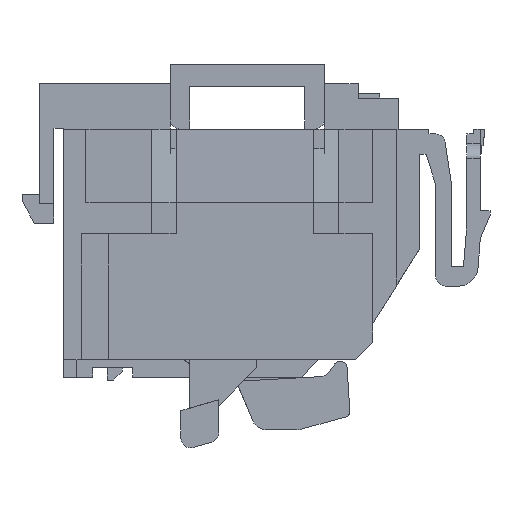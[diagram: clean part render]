
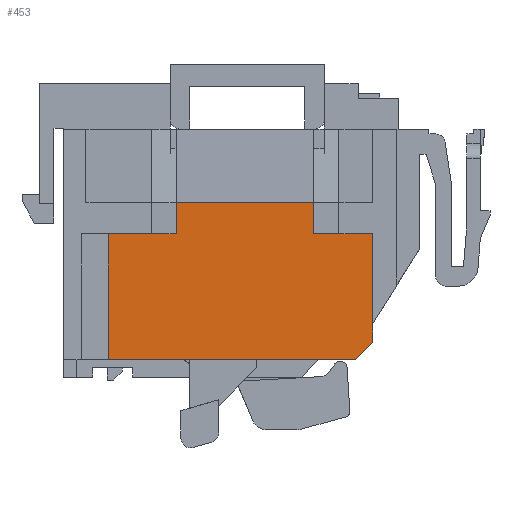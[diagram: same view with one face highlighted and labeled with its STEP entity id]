
A CAD part, front view. The second image highlights one B-rep face of the part: STEP entity #453.
In plain terms, the highlighted planar face has unit normal (0, -1, 0).
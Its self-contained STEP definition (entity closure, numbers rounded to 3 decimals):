
#147=FACE_OUTER_BOUND('',#2811,.T.);
#453=ADVANCED_FACE('',(#147),#757,.T.);
#757=PLANE('',#6593);
#1298=LINE('',#9179,#2172);
#1339=LINE('',#9258,#2213);
#1340=LINE('',#9260,#2214);
#1380=LINE('',#9340,#2254);
#1381=LINE('',#9343,#2255);
#1382=LINE('',#9345,#2256);
#1383=LINE('',#9347,#2257);
#1384=LINE('',#9349,#2258);
#1385=LINE('',#9350,#2259);
#1386=LINE('',#9352,#2260);
#1387=LINE('',#9354,#2261);
#1388=LINE('',#9356,#2262);
#2172=VECTOR('',#7379,1.);
#2213=VECTOR('',#7430,1.);
#2214=VECTOR('',#7433,1.);
#2254=VECTOR('',#7489,1.);
#2255=VECTOR('',#7490,1.);
#2256=VECTOR('',#7491,1.);
#2257=VECTOR('',#7492,1.);
#2258=VECTOR('',#7493,1.);
#2259=VECTOR('',#7494,1.);
#2260=VECTOR('',#7495,1.);
#2261=VECTOR('',#7496,1.);
#2262=VECTOR('',#7497,1.);
#2811=EDGE_LOOP('',(#3610,#3611,#3612,#3613,#3614,#3615,#3616,#3617,#3618,
#3619,#3620,#3621));
#3610=ORIENTED_EDGE('',*,*,#5943,.T.);
#3611=ORIENTED_EDGE('',*,*,#5944,.T.);
#3612=ORIENTED_EDGE('',*,*,#5945,.T.);
#3613=ORIENTED_EDGE('',*,*,#5946,.T.);
#3614=ORIENTED_EDGE('',*,*,#5947,.F.);
#3615=ORIENTED_EDGE('',*,*,#5861,.T.);
#3616=ORIENTED_EDGE('',*,*,#5902,.T.);
#3617=ORIENTED_EDGE('',*,*,#5903,.T.);
#3618=ORIENTED_EDGE('',*,*,#5948,.T.);
#3619=ORIENTED_EDGE('',*,*,#5949,.T.);
#3620=ORIENTED_EDGE('',*,*,#5950,.T.);
#3621=ORIENTED_EDGE('',*,*,#5951,.T.);
#5197=VERTEX_POINT('',#9178);
#5198=VERTEX_POINT('',#9180);
#5229=VERTEX_POINT('',#9253);
#5230=VERTEX_POINT('',#9257);
#5263=VERTEX_POINT('',#9341);
#5264=VERTEX_POINT('',#9342);
#5265=VERTEX_POINT('',#9344);
#5266=VERTEX_POINT('',#9346);
#5267=VERTEX_POINT('',#9348);
#5268=VERTEX_POINT('',#9351);
#5269=VERTEX_POINT('',#9353);
#5270=VERTEX_POINT('',#9355);
#5861=EDGE_CURVE('',#5198,#5197,#1298,.T.);
#5902=EDGE_CURVE('',#5197,#5230,#1339,.T.);
#5903=EDGE_CURVE('',#5230,#5229,#1340,.T.);
#5943=EDGE_CURVE('',#5263,#5264,#1380,.T.);
#5944=EDGE_CURVE('',#5264,#5265,#1381,.T.);
#5945=EDGE_CURVE('',#5265,#5266,#1382,.T.);
#5946=EDGE_CURVE('',#5266,#5267,#1383,.T.);
#5947=EDGE_CURVE('',#5198,#5267,#1384,.T.);
#5948=EDGE_CURVE('',#5229,#5268,#1385,.T.);
#5949=EDGE_CURVE('',#5268,#5269,#1386,.T.);
#5950=EDGE_CURVE('',#5269,#5270,#1387,.T.);
#5951=EDGE_CURVE('',#5270,#5263,#1388,.T.);
#6593=AXIS2_PLACEMENT_3D('',#9357,#7498,#7499);
#7379=DIRECTION('',(1.,0.,0.));
#7430=DIRECTION('',(0.707,0.,0.707));
#7433=DIRECTION('',(0.,0.,1.));
#7489=DIRECTION('',(-1.,0.,0.));
#7490=DIRECTION('',(-1.,0.,0.));
#7491=DIRECTION('',(0.,0.,-1.));
#7492=DIRECTION('',(-1.,0.,0.));
#7493=DIRECTION('',(0.,0.,1.));
#7494=DIRECTION('',(0.,0.,1.));
#7495=DIRECTION('',(-1.,0.,0.));
#7496=DIRECTION('',(0.,0.,1.));
#7497=DIRECTION('',(-1.,0.,0.));
#7498=DIRECTION('',(0.,-1.,0.));
#7499=DIRECTION('',(0.,0.,-1.));
#9178=CARTESIAN_POINT('',(-4.5,-309.,-28.5));
#9179=CARTESIAN_POINT('',(-34.6,-309.,-28.5));
#9180=CARTESIAN_POINT('',(-30.,-309.,-28.5));
#9253=CARTESIAN_POINT('',(-2.7,-309.,-24.792));
#9257=CARTESIAN_POINT('',(-2.7,-309.,-26.7));
#9258=CARTESIAN_POINT('',(-4.5,-309.,-28.5));
#9260=CARTESIAN_POINT('',(-2.7,-309.,-26.7));
#9340=CARTESIAN_POINT('',(4.8,-309.,-12.3));
#9341=CARTESIAN_POINT('',(-15.4,-309.,-12.3));
#9342=CARTESIAN_POINT('',(-16.4,-309.,-12.3));
#9343=CARTESIAN_POINT('',(4.8,-309.,-12.3));
#9344=CARTESIAN_POINT('',(-23.,-309.,-12.3));
#9345=CARTESIAN_POINT('',(-23.,-309.,-19.9));
#9346=CARTESIAN_POINT('',(-23.,-309.,-15.5));
#9347=CARTESIAN_POINT('',(4.8,-309.,-15.5));
#9348=CARTESIAN_POINT('',(-30.,-309.,-15.5));
#9349=CARTESIAN_POINT('',(-30.,-309.,-28.5));
#9350=CARTESIAN_POINT('',(-2.7,-309.,-19.9));
#9351=CARTESIAN_POINT('',(-2.7,-309.,-15.5));
#9352=CARTESIAN_POINT('',(4.8,-309.,-15.5));
#9353=CARTESIAN_POINT('',(-8.8,-309.,-15.5));
#9354=CARTESIAN_POINT('',(-8.8,-309.,-19.9));
#9355=CARTESIAN_POINT('',(-8.8,-309.,-12.3));
#9356=CARTESIAN_POINT('',(4.8,-309.,-12.3));
#9357=CARTESIAN_POINT('',(4.8,-309.,-19.9));
